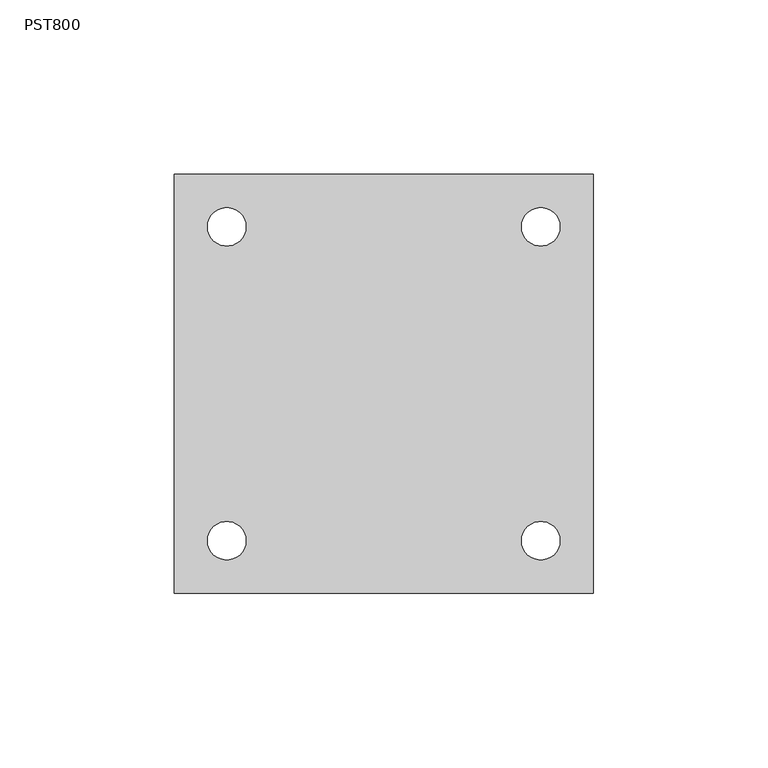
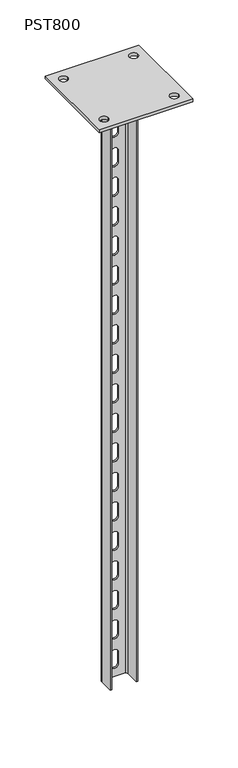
"""IFC4 building model written with IfcOpenShell, lengths in millimetres: proxy geometry, КМ Профиль_Стойка потолочная облегчённая PST : PST800."""

from ifc_helpers import new_model, si_unit, point, frame, frame_2d, origin, place, context, project, spatial, polyline, circle_curve, trimmed, segment, composite_curve, outline, extrude, source, transform, mapped, element, save
from ifc_brep_helpers import plane_surface, cylinder_surface, revolved_surface, advanced_brep


def pst800_dcbf87bc(model_context):
    return source(origin(), model_context, "Body", "SolidModel", [
        advanced_brep(
        [(17.5, -11.5, -4.0), (17.5, 7.5, -4.0), (13.5, 11.5, -4.0), (-13.5, 11.5, -4.0), (-17.5, 7.5, -4.0), (-17.5, -11.5, -4.0), (-15.5, -11.5, -4.0), (-15.5, 7.5, -4.0), (-13.5, 9.5, -4.0), (13.5, 9.5, -4.0), (15.5, 7.5, -4.0), (15.5, -11.5, -4.0), (17.5, 7.5, -804.0), (17.5, -11.5, -804.0), (15.5, -11.5, -804.0), (15.5, 7.5, -804.0), (13.5, 9.5, -804.0), (-13.5, 9.5, -804.0), (-15.5, 7.5, -804.0), (-15.5, -11.5, -804.0), (-17.5, -11.5, -804.0), (-17.5, 7.5, -804.0), (-13.5, 11.5, -804.0), (13.5, 11.5, -804.0), (-5.0, 11.5, -53.0), (-5.0, 11.5, -68.0), (5.0, 11.5, -68.0), (5.0, 11.5, -53.0), (-5.0, 11.5, -93.0), (-5.0, 11.5, -108.0), (5.0, 11.5, -108.0), (5.0, 11.5, -93.0), (-5.0, 11.5, -133.0), (-5.0, 11.5, -148.0), (5.0, 11.5, -148.0), (5.0, 11.5, -133.0), (-5.0, 11.5, -173.0), (-5.0, 11.5, -188.0), (5.0, 11.5, -188.0), (5.0, 11.5, -173.0), (-5.0, 11.5, -213.0), (-5.0, 11.5, -228.0), (5.0, 11.5, -228.0), (5.0, 11.5, -213.0), (-5.0, 11.5, -13.0), (-5.0, 11.5, -28.0), (5.0, 11.5, -28.0), (5.0, 11.5, -13.0), (-5.0, 11.5, -253.0), (-5.0, 11.5, -268.0), (5.0, 11.5, -268.0), (5.0, 11.5, -253.0), (-5.0, 11.5, -293.0), (-5.0, 11.5, -308.0), (5.0, 11.5, -308.0), (5.0, 11.5, -293.0), (-5.0, 11.5, -333.0), (-5.0, 11.5, -348.0), (5.0, 11.5, -348.0), (5.0, 11.5, -333.0), (-5.0, 11.5, -373.0), (-5.0, 11.5, -388.0), (5.0, 11.5, -388.0), (5.0, 11.5, -373.0), (-5.0, 11.5, -413.0), (-5.0, 11.5, -428.0), (5.0, 11.5, -428.0), (5.0, 11.5, -413.0), (-5.0, 11.5, -453.0), (-5.0, 11.5, -468.0), (5.0, 11.5, -468.0), (5.0, 11.5, -453.0), (-5.0, 11.5, -493.0), (-5.0, 11.5, -508.0), (5.0, 11.5, -508.0), (5.0, 11.5, -493.0), (-5.0, 11.5, -533.0), (-5.0, 11.5, -548.0), (5.0, 11.5, -548.0), (5.0, 11.5, -533.0), (-5.0, 11.5, -573.0), (-5.0, 11.5, -588.0), (5.0, 11.5, -588.0), (5.0, 11.5, -573.0), (-5.0, 11.5, -613.0), (-5.0, 11.5, -628.0), (5.0, 11.5, -628.0), (5.0, 11.5, -613.0), (-5.0, 11.5, -653.0), (-5.0, 11.5, -668.0), (5.0, 11.5, -668.0), (5.0, 11.5, -653.0), (-5.0, 11.5, -693.0), (-5.0, 11.5, -708.0), (5.0, 11.5, -708.0), (5.0, 11.5, -693.0), (-5.0, 11.5, -733.0), (-5.0, 11.5, -748.0), (5.0, 11.5, -748.0), (5.0, 11.5, -733.0), (-5.0, 11.5, -773.0), (-5.0, 11.5, -788.0), (5.0, 11.5, -788.0), (5.0, 11.5, -773.0), (-5.0, 9.5, -68.0), (-5.0, 9.5, -53.0), (5.0, 9.5, -53.0), (5.0, 9.5, -68.0), (-5.0, 9.5, -108.0), (-5.0, 9.5, -93.0), (5.0, 9.5, -93.0), (5.0, 9.5, -108.0), (-5.0, 9.5, -148.0), (-5.0, 9.5, -133.0), (5.0, 9.5, -133.0), (5.0, 9.5, -148.0), (-5.0, 9.5, -188.0), (-5.0, 9.5, -173.0), (5.0, 9.5, -173.0), (5.0, 9.5, -188.0), (-5.0, 9.5, -228.0), (-5.0, 9.5, -213.0), (5.0, 9.5, -213.0), (5.0, 9.5, -228.0), (-5.0, 9.5, -28.0), (-5.0, 9.5, -13.0), (5.0, 9.5, -13.0), (5.0, 9.5, -28.0), (-5.0, 9.5, -268.0), (-5.0, 9.5, -253.0), (5.0, 9.5, -253.0), (5.0, 9.5, -268.0), (-5.0, 9.5, -308.0), (-5.0, 9.5, -293.0), (5.0, 9.5, -293.0), (5.0, 9.5, -308.0), (-5.0, 9.5, -348.0), (-5.0, 9.5, -333.0), (5.0, 9.5, -333.0), (5.0, 9.5, -348.0), (-5.0, 9.5, -388.0), (-5.0, 9.5, -373.0), (5.0, 9.5, -373.0), (5.0, 9.5, -388.0), (-5.0, 9.5, -428.0), (-5.0, 9.5, -413.0), (5.0, 9.5, -413.0), (5.0, 9.5, -428.0), (-5.0, 9.5, -468.0), (-5.0, 9.5, -453.0), (5.0, 9.5, -453.0), (5.0, 9.5, -468.0), (-5.0, 9.5, -508.0), (-5.0, 9.5, -493.0), (5.0, 9.5, -493.0), (5.0, 9.5, -508.0), (-5.0, 9.5, -548.0), (-5.0, 9.5, -533.0), (5.0, 9.5, -533.0), (5.0, 9.5, -548.0), (-5.0, 9.5, -588.0), (-5.0, 9.5, -573.0), (5.0, 9.5, -573.0), (5.0, 9.5, -588.0), (-5.0, 9.5, -628.0), (-5.0, 9.5, -613.0), (5.0, 9.5, -613.0), (5.0, 9.5, -628.0), (-5.0, 9.5, -668.0), (-5.0, 9.5, -653.0), (5.0, 9.5, -653.0), (5.0, 9.5, -668.0), (-5.0, 9.5, -708.0), (-5.0, 9.5, -693.0), (5.0, 9.5, -693.0), (5.0, 9.5, -708.0), (-5.0, 9.5, -748.0), (-5.0, 9.5, -733.0), (5.0, 9.5, -733.0), (5.0, 9.5, -748.0), (-5.0, 9.5, -788.0), (-5.0, 9.5, -773.0), (5.0, 9.5, -773.0), (5.0, 9.5, -788.0)],
        [
            (0, 1),
            (1, 2, circle_curve(frame((13.5, 7.5, -4.0), z_axis=(0.0, 0.0, 1.0), x_axis=(1.0, 0.0, 0.0)), 4.0)),
            (2, 3),
            (3, 4, circle_curve(frame((-13.5, 7.5, -4.0), z_axis=(0.0, 0.0, 1.0), x_axis=(1.0, 0.0, 0.0)), 4.0)),
            (4, 5),
            (5, 6),
            (6, 7),
            (7, 8, circle_curve(frame((-13.5, 7.5, -4.0), z_axis=(0.0, 0.0, -1.0), x_axis=(1.0, 0.0, 0.0)), 2.0)),
            (8, 9),
            (9, 10, circle_curve(frame((13.5, 7.5, -4.0), z_axis=(0.0, 0.0, -1.0), x_axis=(1.0, 0.0, 0.0)), 2.0)),
            (10, 11),
            (11, 0),
            (12, 13),
            (13, 14),
            (14, 15),
            (15, 16, circle_curve(frame((13.5, 7.5, -804.0), z_axis=(0.0, 0.0, 1.0), x_axis=(1.0, 0.0, 0.0)), 2.0)),
            (16, 17),
            (17, 18, circle_curve(frame((-13.5, 7.5, -804.0), z_axis=(0.0, 0.0, 1.0), x_axis=(1.0, 0.0, 0.0)), 2.0)),
            (18, 19),
            (19, 20),
            (20, 21),
            (21, 22, circle_curve(frame((-13.5, 7.5, -804.0), z_axis=(0.0, 0.0, -1.0), x_axis=(1.0, 0.0, 0.0)), 4.0)),
            (22, 23),
            (23, 12, circle_curve(frame((13.5, 7.5, -804.0), z_axis=(0.0, 0.0, -1.0), x_axis=(1.0, 0.0, 0.0)), 4.0)),
            (0, 13),
            (12, 1),
            (23, 2),
            (22, 3),
            (24, 25),
            (25, 26, circle_curve(frame((0.0, 11.5, -68.0), z_axis=(0.0, -1.0, 0.0), x_axis=(0.0, 0.0, -1.0)), 5.0)),
            (26, 27),
            (27, 24, circle_curve(frame((0.0, 11.5, -53.0), z_axis=(0.0, -1.0, 0.0), x_axis=(0.0, 0.0, -1.0)), 5.0)),
            (28, 29),
            (29, 30, circle_curve(frame((0.0, 11.5, -108.0), z_axis=(0.0, -1.0, 0.0), x_axis=(0.0, 0.0, -1.0)), 5.0)),
            (30, 31),
            (31, 28, circle_curve(frame((0.0, 11.5, -93.0), z_axis=(0.0, -1.0, 0.0), x_axis=(0.0, 0.0, -1.0)), 5.0)),
            (32, 33),
            (33, 34, circle_curve(frame((0.0, 11.5, -148.0), z_axis=(0.0, -1.0, 0.0), x_axis=(0.0, 0.0, -1.0)), 5.0)),
            (34, 35),
            (35, 32, circle_curve(frame((0.0, 11.5, -133.0), z_axis=(0.0, -1.0, 0.0), x_axis=(0.0, 0.0, -1.0)), 5.0)),
            (36, 37),
            (37, 38, circle_curve(frame((0.0, 11.5, -188.0), z_axis=(0.0, -1.0, 0.0), x_axis=(0.0, 0.0, -1.0)), 5.0)),
            (38, 39),
            (39, 36, circle_curve(frame((0.0, 11.5, -173.0), z_axis=(0.0, -1.0, 0.0), x_axis=(0.0, 0.0, -1.0)), 5.0)),
            (40, 41),
            (41, 42, circle_curve(frame((0.0, 11.5, -228.0), z_axis=(0.0, -1.0, 0.0), x_axis=(0.0, 0.0, -1.0)), 5.0)),
            (42, 43),
            (43, 40, circle_curve(frame((0.0, 11.5, -213.0), z_axis=(0.0, -1.0, 0.0), x_axis=(0.0, 0.0, -1.0)), 5.0)),
            (44, 45),
            (45, 46, circle_curve(frame((0.0, 11.5, -28.0), z_axis=(0.0, -1.0, 0.0), x_axis=(0.0, 0.0, -1.0)), 5.0)),
            (46, 47),
            (47, 44, circle_curve(frame((0.0, 11.5, -13.0), z_axis=(0.0, -1.0, 0.0), x_axis=(0.0, 0.0, -1.0)), 5.0)),
            (48, 49),
            (49, 50, circle_curve(frame((0.0, 11.5, -268.0), z_axis=(0.0, -1.0, 0.0), x_axis=(0.0, 0.0, -1.0)), 5.0)),
            (50, 51),
            (51, 48, circle_curve(frame((0.0, 11.5, -253.0), z_axis=(0.0, -1.0, 0.0), x_axis=(0.0, 0.0, -1.0)), 5.0)),
            (52, 53),
            (53, 54, circle_curve(frame((0.0, 11.5, -308.0), z_axis=(0.0, -1.0, 0.0), x_axis=(0.0, 0.0, -1.0)), 5.0)),
            (54, 55),
            (55, 52, circle_curve(frame((0.0, 11.5, -293.0), z_axis=(0.0, -1.0, 0.0), x_axis=(0.0, 0.0, -1.0)), 5.0)),
            (56, 57),
            (57, 58, circle_curve(frame((0.0, 11.5, -348.0), z_axis=(0.0, -1.0, 0.0), x_axis=(0.0, 0.0, -1.0)), 5.0)),
            (58, 59),
            (59, 56, circle_curve(frame((0.0, 11.5, -333.0), z_axis=(0.0, -1.0, 0.0), x_axis=(0.0, 0.0, -1.0)), 5.0)),
            (60, 61),
            (61, 62, circle_curve(frame((0.0, 11.5, -388.0), z_axis=(0.0, -1.0, 0.0), x_axis=(0.0, 0.0, -1.0)), 5.0)),
            (62, 63),
            (63, 60, circle_curve(frame((0.0, 11.5, -373.0), z_axis=(0.0, -1.0, 0.0), x_axis=(0.0, 0.0, -1.0)), 5.0)),
            (64, 65),
            (65, 66, circle_curve(frame((0.0, 11.5, -428.0), z_axis=(0.0, -1.0, 0.0), x_axis=(0.0, 0.0, -1.0)), 5.0)),
            (66, 67),
            (67, 64, circle_curve(frame((0.0, 11.5, -413.0), z_axis=(0.0, -1.0, 0.0), x_axis=(0.0, 0.0, -1.0)), 5.0)),
            (68, 69),
            (69, 70, circle_curve(frame((0.0, 11.5, -468.0), z_axis=(0.0, -1.0, 0.0), x_axis=(0.0, 0.0, -1.0)), 5.0)),
            (70, 71),
            (71, 68, circle_curve(frame((0.0, 11.5, -453.0), z_axis=(0.0, -1.0, 0.0), x_axis=(0.0, 0.0, -1.0)), 5.0)),
            (72, 73),
            (73, 74, circle_curve(frame((0.0, 11.5, -508.0), z_axis=(0.0, -1.0, 0.0), x_axis=(0.0, 0.0, -1.0)), 5.0)),
            (74, 75),
            (75, 72, circle_curve(frame((0.0, 11.5, -493.0), z_axis=(0.0, -1.0, 0.0), x_axis=(0.0, 0.0, -1.0)), 5.0)),
            (76, 77),
            (77, 78, circle_curve(frame((0.0, 11.5, -548.0), z_axis=(0.0, -1.0, 0.0), x_axis=(0.0, 0.0, -1.0)), 5.0)),
            (78, 79),
            (79, 76, circle_curve(frame((0.0, 11.5, -533.0), z_axis=(0.0, -1.0, 0.0), x_axis=(0.0, 0.0, -1.0)), 5.0)),
            (80, 81),
            (81, 82, circle_curve(frame((0.0, 11.5, -588.0), z_axis=(0.0, -1.0, 0.0), x_axis=(0.0, 0.0, -1.0)), 5.0)),
            (82, 83),
            (83, 80, circle_curve(frame((0.0, 11.5, -573.0), z_axis=(0.0, -1.0, 0.0), x_axis=(0.0, 0.0, -1.0)), 5.0)),
            (84, 85),
            (85, 86, circle_curve(frame((0.0, 11.5, -628.0), z_axis=(0.0, -1.0, 0.0), x_axis=(0.0, 0.0, -1.0)), 5.0)),
            (86, 87),
            (87, 84, circle_curve(frame((0.0, 11.5, -613.0), z_axis=(0.0, -1.0, 0.0), x_axis=(0.0, 0.0, -1.0)), 5.0)),
            (88, 89),
            (89, 90, circle_curve(frame((0.0, 11.5, -668.0), z_axis=(0.0, -1.0, 0.0), x_axis=(0.0, 0.0, -1.0)), 5.0)),
            (90, 91),
            (91, 88, circle_curve(frame((0.0, 11.5, -653.0), z_axis=(0.0, -1.0, 0.0), x_axis=(0.0, 0.0, -1.0)), 5.0)),
            (92, 93),
            (93, 94, circle_curve(frame((0.0, 11.5, -708.0), z_axis=(0.0, -1.0, 0.0), x_axis=(0.0, 0.0, -1.0)), 5.0)),
            (94, 95),
            (95, 92, circle_curve(frame((0.0, 11.5, -693.0), z_axis=(0.0, -1.0, 0.0), x_axis=(0.0, 0.0, -1.0)), 5.0)),
            (96, 97),
            (97, 98, circle_curve(frame((0.0, 11.5, -748.0), z_axis=(0.0, -1.0, 0.0), x_axis=(0.0, 0.0, -1.0)), 5.0)),
            (98, 99),
            (99, 96, circle_curve(frame((0.0, 11.5, -733.0), z_axis=(0.0, -1.0, 0.0), x_axis=(0.0, 0.0, -1.0)), 5.0)),
            (100, 101),
            (101, 102, circle_curve(frame((0.0, 11.5, -788.0), z_axis=(0.0, -1.0, 0.0), x_axis=(0.0, 0.0, -1.0)), 5.0)),
            (102, 103),
            (103, 100, circle_curve(frame((0.0, 11.5, -773.0), z_axis=(0.0, -1.0, 0.0), x_axis=(0.0, 0.0, -1.0)), 5.0)),
            (21, 4),
            (20, 5),
            (19, 6),
            (18, 7),
            (17, 8),
            (16, 9),
            (104, 105),
            (105, 106, circle_curve(frame((0.0, 9.5, -53.0), z_axis=(0.0, 1.0, 0.0), x_axis=(0.0, 0.0, -1.0)), 5.0)),
            (106, 107),
            (107, 104, circle_curve(frame((0.0, 9.5, -68.0), z_axis=(0.0, 1.0, 0.0), x_axis=(0.0, 0.0, -1.0)), 5.0)),
            (108, 109),
            (109, 110, circle_curve(frame((0.0, 9.5, -93.0), z_axis=(0.0, 1.0, 0.0), x_axis=(0.0, 0.0, -1.0)), 5.0)),
            (110, 111),
            (111, 108, circle_curve(frame((0.0, 9.5, -108.0), z_axis=(0.0, 1.0, 0.0), x_axis=(0.0, 0.0, -1.0)), 5.0)),
            (112, 113),
            (113, 114, circle_curve(frame((0.0, 9.5, -133.0), z_axis=(0.0, 1.0, 0.0), x_axis=(0.0, 0.0, -1.0)), 5.0)),
            (114, 115),
            (115, 112, circle_curve(frame((0.0, 9.5, -148.0), z_axis=(0.0, 1.0, 0.0), x_axis=(0.0, 0.0, -1.0)), 5.0)),
            (116, 117),
            (117, 118, circle_curve(frame((0.0, 9.5, -173.0), z_axis=(0.0, 1.0, 0.0), x_axis=(0.0, 0.0, -1.0)), 5.0)),
            (118, 119),
            (119, 116, circle_curve(frame((0.0, 9.5, -188.0), z_axis=(0.0, 1.0, 0.0), x_axis=(0.0, 0.0, -1.0)), 5.0)),
            (120, 121),
            (121, 122, circle_curve(frame((0.0, 9.5, -213.0), z_axis=(0.0, 1.0, 0.0), x_axis=(0.0, 0.0, -1.0)), 5.0)),
            (122, 123),
            (123, 120, circle_curve(frame((0.0, 9.5, -228.0), z_axis=(0.0, 1.0, 0.0), x_axis=(0.0, 0.0, -1.0)), 5.0)),
            (124, 125),
            (125, 126, circle_curve(frame((0.0, 9.5, -13.0), z_axis=(0.0, 1.0, 0.0), x_axis=(0.0, 0.0, -1.0)), 5.0)),
            (126, 127),
            (127, 124, circle_curve(frame((0.0, 9.5, -28.0), z_axis=(0.0, 1.0, 0.0), x_axis=(0.0, 0.0, -1.0)), 5.0)),
            (128, 129),
            (129, 130, circle_curve(frame((0.0, 9.5, -253.0), z_axis=(0.0, 1.0, 0.0), x_axis=(0.0, 0.0, -1.0)), 5.0)),
            (130, 131),
            (131, 128, circle_curve(frame((0.0, 9.5, -268.0), z_axis=(0.0, 1.0, 0.0), x_axis=(0.0, 0.0, -1.0)), 5.0)),
            (132, 133),
            (133, 134, circle_curve(frame((0.0, 9.5, -293.0), z_axis=(0.0, 1.0, 0.0), x_axis=(0.0, 0.0, -1.0)), 5.0)),
            (134, 135),
            (135, 132, circle_curve(frame((0.0, 9.5, -308.0), z_axis=(0.0, 1.0, 0.0), x_axis=(0.0, 0.0, -1.0)), 5.0)),
            (136, 137),
            (137, 138, circle_curve(frame((0.0, 9.5, -333.0), z_axis=(0.0, 1.0, 0.0), x_axis=(0.0, 0.0, -1.0)), 5.0)),
            (138, 139),
            (139, 136, circle_curve(frame((0.0, 9.5, -348.0), z_axis=(0.0, 1.0, 0.0), x_axis=(0.0, 0.0, -1.0)), 5.0)),
            (140, 141),
            (141, 142, circle_curve(frame((0.0, 9.5, -373.0), z_axis=(0.0, 1.0, 0.0), x_axis=(0.0, 0.0, -1.0)), 5.0)),
            (142, 143),
            (143, 140, circle_curve(frame((0.0, 9.5, -388.0), z_axis=(0.0, 1.0, 0.0), x_axis=(0.0, 0.0, -1.0)), 5.0)),
            (144, 145),
            (145, 146, circle_curve(frame((0.0, 9.5, -413.0), z_axis=(0.0, 1.0, 0.0), x_axis=(0.0, 0.0, -1.0)), 5.0)),
            (146, 147),
            (147, 144, circle_curve(frame((0.0, 9.5, -428.0), z_axis=(0.0, 1.0, 0.0), x_axis=(0.0, 0.0, -1.0)), 5.0)),
            (148, 149),
            (149, 150, circle_curve(frame((0.0, 9.5, -453.0), z_axis=(0.0, 1.0, 0.0), x_axis=(0.0, 0.0, -1.0)), 5.0)),
            (150, 151),
            (151, 148, circle_curve(frame((0.0, 9.5, -468.0), z_axis=(0.0, 1.0, 0.0), x_axis=(0.0, 0.0, -1.0)), 5.0)),
            (152, 153),
            (153, 154, circle_curve(frame((0.0, 9.5, -493.0), z_axis=(0.0, 1.0, 0.0), x_axis=(0.0, 0.0, -1.0)), 5.0)),
            (154, 155),
            (155, 152, circle_curve(frame((0.0, 9.5, -508.0), z_axis=(0.0, 1.0, 0.0), x_axis=(0.0, 0.0, -1.0)), 5.0)),
            (156, 157),
            (157, 158, circle_curve(frame((0.0, 9.5, -533.0), z_axis=(0.0, 1.0, 0.0), x_axis=(0.0, 0.0, -1.0)), 5.0)),
            (158, 159),
            (159, 156, circle_curve(frame((0.0, 9.5, -548.0), z_axis=(0.0, 1.0, 0.0), x_axis=(0.0, 0.0, -1.0)), 5.0)),
            (160, 161),
            (161, 162, circle_curve(frame((0.0, 9.5, -573.0), z_axis=(0.0, 1.0, 0.0), x_axis=(0.0, 0.0, -1.0)), 5.0)),
            (162, 163),
            (163, 160, circle_curve(frame((0.0, 9.5, -588.0), z_axis=(0.0, 1.0, 0.0), x_axis=(0.0, 0.0, -1.0)), 5.0)),
            (164, 165),
            (165, 166, circle_curve(frame((0.0, 9.5, -613.0), z_axis=(0.0, 1.0, 0.0), x_axis=(0.0, 0.0, -1.0)), 5.0)),
            (166, 167),
            (167, 164, circle_curve(frame((0.0, 9.5, -628.0), z_axis=(0.0, 1.0, 0.0), x_axis=(0.0, 0.0, -1.0)), 5.0)),
            (168, 169),
            (169, 170, circle_curve(frame((0.0, 9.5, -653.0), z_axis=(0.0, 1.0, 0.0), x_axis=(0.0, 0.0, -1.0)), 5.0)),
            (170, 171),
            (171, 168, circle_curve(frame((0.0, 9.5, -668.0), z_axis=(0.0, 1.0, 0.0), x_axis=(0.0, 0.0, -1.0)), 5.0)),
            (172, 173),
            (173, 174, circle_curve(frame((0.0, 9.5, -693.0), z_axis=(0.0, 1.0, 0.0), x_axis=(0.0, 0.0, -1.0)), 5.0)),
            (174, 175),
            (175, 172, circle_curve(frame((0.0, 9.5, -708.0), z_axis=(0.0, 1.0, 0.0), x_axis=(0.0, 0.0, -1.0)), 5.0)),
            (176, 177),
            (177, 178, circle_curve(frame((0.0, 9.5, -733.0), z_axis=(0.0, 1.0, 0.0), x_axis=(0.0, 0.0, -1.0)), 5.0)),
            (178, 179),
            (179, 176, circle_curve(frame((0.0, 9.5, -748.0), z_axis=(0.0, 1.0, 0.0), x_axis=(0.0, 0.0, -1.0)), 5.0)),
            (180, 181),
            (181, 182, circle_curve(frame((0.0, 9.5, -773.0), z_axis=(0.0, 1.0, 0.0), x_axis=(0.0, 0.0, -1.0)), 5.0)),
            (182, 183),
            (183, 180, circle_curve(frame((0.0, 9.5, -788.0), z_axis=(0.0, 1.0, 0.0), x_axis=(0.0, 0.0, -1.0)), 5.0)),
            (15, 10),
            (14, 11),
            (24, 105),
            (104, 25),
            (27, 106),
            (26, 107),
            (28, 109),
            (108, 29),
            (31, 110),
            (30, 111),
            (32, 113),
            (112, 33),
            (35, 114),
            (34, 115),
            (36, 117),
            (116, 37),
            (39, 118),
            (38, 119),
            (40, 121),
            (120, 41),
            (43, 122),
            (42, 123),
            (44, 125),
            (124, 45),
            (47, 126),
            (46, 127),
            (48, 129),
            (128, 49),
            (51, 130),
            (50, 131),
            (52, 133),
            (132, 53),
            (55, 134),
            (54, 135),
            (56, 137),
            (136, 57),
            (59, 138),
            (58, 139),
            (60, 141),
            (140, 61),
            (63, 142),
            (62, 143),
            (64, 145),
            (144, 65),
            (67, 146),
            (66, 147),
            (68, 149),
            (148, 69),
            (71, 150),
            (70, 151),
            (72, 153),
            (152, 73),
            (75, 154),
            (74, 155),
            (76, 157),
            (156, 77),
            (79, 158),
            (78, 159),
            (80, 161),
            (160, 81),
            (83, 162),
            (82, 163),
            (84, 165),
            (164, 85),
            (87, 166),
            (86, 167),
            (88, 169),
            (168, 89),
            (91, 170),
            (90, 171),
            (92, 173),
            (172, 93),
            (95, 174),
            (94, 175),
            (96, 177),
            (176, 97),
            (99, 178),
            (98, 179),
            (100, 181),
            (180, 101),
            (103, 182),
            (102, 183),
        ],
        [
            plane_surface(frame((17.5, 70.8587358, -4.0), z_axis=(0.0, 0.0, 1.0), x_axis=(0.0, 1.0, 0.0))),
            plane_surface(frame((17.5, 70.8587358, -804.0), z_axis=(0.0, 0.0, -1.0), x_axis=(0.0, -1.0, 0.0))),
            plane_surface(frame((17.5, -11.5, -4.0), z_axis=(1.0, 0.0, 0.0), x_axis=(0.0, 0.0, -1.0))),
            cylinder_surface(frame((13.5, 7.5, -804.0), z_axis=(0.0, 0.0, 1.0), x_axis=(1.0, 0.0, 0.0)), 4.0),
            plane_surface(frame((13.5, 11.5, -4.0), z_axis=(0.0, 1.0, 0.0), x_axis=(0.0, 0.0, -1.0))),
            cylinder_surface(frame((-13.5, 7.5, -804.0), z_axis=(0.0, 0.0, 1.0), x_axis=(1.0, 0.0, 0.0)), 4.0),
            plane_surface(frame((-17.5, 7.5, -4.0), z_axis=(-1.0, 0.0, 0.0), x_axis=(0.0, 0.0, -1.0))),
            plane_surface(frame((-17.5, -11.5, -4.0), z_axis=(0.0, -1.0, 0.0), x_axis=(0.0, 0.0, -1.0))),
            plane_surface(frame((-15.5, -11.5, -4.0), z_axis=(1.0, 0.0, 0.0), x_axis=(0.0, 0.0, -1.0))),
            revolved_surface(polyline([(-11.5, 7.5, -804.0), (-11.5, 7.5, -4.0)]), (-13.5, 7.5, -804.0), (0.0, 0.0, -1.0)),
            plane_surface(frame((-13.5, 9.5, -4.0), z_axis=(0.0, -1.0, 0.0), x_axis=(0.0, 0.0, -1.0))),
            revolved_surface(polyline([(15.5, 7.5, -804.0), (15.5, 7.5, -4.0)]), (13.5, 7.5, -804.0), (0.0, 0.0, -1.0)),
            plane_surface(frame((15.5, 7.5, -4.0), z_axis=(-1.0, 0.0, 0.0), x_axis=(0.0, 0.0, -1.0))),
            plane_surface(frame((15.5, -11.5, -4.0), z_axis=(0.0, -1.0, 0.0), x_axis=(0.0, 0.0, -1.0))),
            plane_surface(frame((-5.0, 11.5, -68.0), z_axis=(1.0, 0.0, 0.0), x_axis=(0.0, -1.0, 0.0))),
            revolved_surface(polyline([(0.0, 11.5, -58.0), (0.0, 9.5, -58.0)]), (0.0, 9.5, -53.0), (0.0, 1.0, 0.0)),
            plane_surface(frame((5.0, 11.5, -53.0), z_axis=(-1.0, 0.0, 0.0), x_axis=(0.0, -1.0, 0.0))),
            revolved_surface(polyline([(0.0, 11.5, -73.0), (0.0, 9.5, -73.0)]), (0.0, 9.5, -68.0), (0.0, 1.0, 0.0)),
            plane_surface(frame((-5.0, 11.5, -108.0), z_axis=(1.0, 0.0, 0.0), x_axis=(0.0, -1.0, 0.0))),
            revolved_surface(polyline([(0.0, 11.5, -98.0), (0.0, 9.5, -98.0)]), (0.0, 9.5, -93.0), (0.0, 1.0, 0.0)),
            plane_surface(frame((5.0, 11.5, -93.0), z_axis=(-1.0, 0.0, 0.0), x_axis=(0.0, -1.0, 0.0))),
            revolved_surface(polyline([(0.0, 11.5, -113.0), (0.0, 9.5, -113.0)]), (0.0, 9.5, -108.0), (0.0, 1.0, 0.0)),
            plane_surface(frame((-5.0, 11.5, -148.0), z_axis=(1.0, 0.0, 0.0), x_axis=(0.0, -1.0, 0.0))),
            revolved_surface(polyline([(0.0, 11.5, -138.0), (0.0, 9.5, -138.0)]), (0.0, 9.5, -133.0), (0.0, 1.0, 0.0)),
            plane_surface(frame((5.0, 11.5, -133.0), z_axis=(-1.0, 0.0, 0.0), x_axis=(0.0, -1.0, 0.0))),
            revolved_surface(polyline([(0.0, 11.5, -153.0), (0.0, 9.5, -153.0)]), (0.0, 9.5, -148.0), (0.0, 1.0, 0.0)),
            plane_surface(frame((-5.0, 11.5, -188.0), z_axis=(1.0, 0.0, 0.0), x_axis=(0.0, -1.0, 0.0))),
            revolved_surface(polyline([(0.0, 11.5, -178.0), (0.0, 9.5, -178.0)]), (0.0, 9.5, -173.0), (0.0, 1.0, 0.0)),
            plane_surface(frame((5.0, 11.5, -173.0), z_axis=(-1.0, 0.0, 0.0), x_axis=(0.0, -1.0, 0.0))),
            revolved_surface(polyline([(0.0, 11.5, -193.0), (0.0, 9.5, -193.0)]), (0.0, 9.5, -188.0), (0.0, 1.0, 0.0)),
            plane_surface(frame((-5.0, 11.5, -228.0), z_axis=(1.0, 0.0, 0.0), x_axis=(0.0, -1.0, 0.0))),
            revolved_surface(polyline([(0.0, 11.5, -218.0), (0.0, 9.5, -218.0)]), (0.0, 9.5, -213.0), (0.0, 1.0, 0.0)),
            plane_surface(frame((5.0, 11.5, -213.0), z_axis=(-1.0, 0.0, 0.0), x_axis=(0.0, -1.0, 0.0))),
            revolved_surface(polyline([(0.0, 11.5, -233.0), (0.0, 9.5, -233.0)]), (0.0, 9.5, -228.0), (0.0, 1.0, 0.0)),
            plane_surface(frame((-5.0, 11.5, -28.0), z_axis=(1.0, 0.0, 0.0), x_axis=(0.0, -1.0, 0.0))),
            revolved_surface(polyline([(0.0, 11.5, -18.0), (0.0, 9.5, -18.0)]), (0.0, 9.5, -13.0), (0.0, 1.0, 0.0)),
            plane_surface(frame((5.0, 11.5, -13.0), z_axis=(-1.0, 0.0, 0.0), x_axis=(0.0, -1.0, 0.0))),
            revolved_surface(polyline([(0.0, 11.5, -33.0), (0.0, 9.5, -33.0)]), (0.0, 9.5, -28.0), (0.0, 1.0, 0.0)),
            plane_surface(frame((-5.0, 11.5, -268.0), z_axis=(1.0, 0.0, 0.0), x_axis=(0.0, -1.0, 0.0))),
            revolved_surface(polyline([(0.0, 11.5, -258.0), (0.0, 9.5, -258.0)]), (0.0, 9.5, -253.0), (0.0, 1.0, 0.0)),
            plane_surface(frame((5.0, 11.5, -253.0), z_axis=(-1.0, 0.0, 0.0), x_axis=(0.0, -1.0, 0.0))),
            revolved_surface(polyline([(0.0, 11.5, -273.0), (0.0, 9.5, -273.0)]), (0.0, 9.5, -268.0), (0.0, 1.0, 0.0)),
            plane_surface(frame((-5.0, 11.5, -308.0), z_axis=(1.0, 0.0, 0.0), x_axis=(0.0, -1.0, 0.0))),
            revolved_surface(polyline([(0.0, 11.5, -298.0), (0.0, 9.5, -298.0)]), (0.0, 9.5, -293.0), (0.0, 1.0, 0.0)),
            plane_surface(frame((5.0, 11.5, -293.0), z_axis=(-1.0, 0.0, 0.0), x_axis=(0.0, -1.0, 0.0))),
            revolved_surface(polyline([(0.0, 11.5, -313.0), (0.0, 9.5, -313.0)]), (0.0, 9.5, -308.0), (0.0, 1.0, 0.0)),
            plane_surface(frame((-5.0, 11.5, -348.0), z_axis=(1.0, 0.0, 0.0), x_axis=(0.0, -1.0, 0.0))),
            revolved_surface(polyline([(0.0, 11.5, -338.0), (0.0, 9.5, -338.0)]), (0.0, 9.5, -333.0), (0.0, 1.0, 0.0)),
            plane_surface(frame((5.0, 11.5, -333.0), z_axis=(-1.0, 0.0, 0.0), x_axis=(0.0, -1.0, 0.0))),
            revolved_surface(polyline([(0.0, 11.5, -353.0), (0.0, 9.5, -353.0)]), (0.0, 9.5, -348.0), (0.0, 1.0, 0.0)),
            plane_surface(frame((-5.0, 11.5, -388.0), z_axis=(1.0, 0.0, 0.0), x_axis=(0.0, -1.0, 0.0))),
            revolved_surface(polyline([(0.0, 11.5, -378.0), (0.0, 9.5, -378.0)]), (0.0, 9.5, -373.0), (0.0, 1.0, 0.0)),
            plane_surface(frame((5.0, 11.5, -373.0), z_axis=(-1.0, 0.0, 0.0), x_axis=(0.0, -1.0, 0.0))),
            revolved_surface(polyline([(0.0, 11.5, -393.0), (0.0, 9.5, -393.0)]), (0.0, 9.5, -388.0), (0.0, 1.0, 0.0)),
            plane_surface(frame((-5.0, 11.5, -428.0), z_axis=(1.0, 0.0, 0.0), x_axis=(0.0, -1.0, 0.0))),
            revolved_surface(polyline([(0.0, 11.5, -418.0), (0.0, 9.5, -418.0)]), (0.0, 9.5, -413.0), (0.0, 1.0, 0.0)),
            plane_surface(frame((5.0, 11.5, -413.0), z_axis=(-1.0, 0.0, 0.0), x_axis=(0.0, -1.0, 0.0))),
            revolved_surface(polyline([(0.0, 11.5, -433.0), (0.0, 9.5, -433.0)]), (0.0, 9.5, -428.0), (0.0, 1.0, 0.0)),
            plane_surface(frame((-5.0, 11.5, -468.0), z_axis=(1.0, 0.0, 0.0), x_axis=(0.0, -1.0, 0.0))),
            revolved_surface(polyline([(0.0, 11.5, -458.0), (0.0, 9.5, -458.0)]), (0.0, 9.5, -453.0), (0.0, 1.0, 0.0)),
            plane_surface(frame((5.0, 11.5, -453.0), z_axis=(-1.0, 0.0, 0.0), x_axis=(0.0, -1.0, 0.0))),
            revolved_surface(polyline([(0.0, 11.5, -473.0), (0.0, 9.5, -473.0)]), (0.0, 9.5, -468.0), (0.0, 1.0, 0.0)),
            plane_surface(frame((-5.0, 11.5, -508.0), z_axis=(1.0, 0.0, 0.0), x_axis=(0.0, -1.0, 0.0))),
            revolved_surface(polyline([(0.0, 11.5, -498.0), (0.0, 9.5, -498.0)]), (0.0, 9.5, -493.0), (0.0, 1.0, 0.0)),
            plane_surface(frame((5.0, 11.5, -493.0), z_axis=(-1.0, 0.0, 0.0), x_axis=(0.0, -1.0, 0.0))),
            revolved_surface(polyline([(0.0, 11.5, -513.0), (0.0, 9.5, -513.0)]), (0.0, 9.5, -508.0), (0.0, 1.0, 0.0)),
            plane_surface(frame((-5.0, 11.5, -548.0), z_axis=(1.0, 0.0, 0.0), x_axis=(0.0, -1.0, 0.0))),
            revolved_surface(polyline([(0.0, 11.5, -538.0), (0.0, 9.5, -538.0)]), (0.0, 9.5, -533.0), (0.0, 1.0, 0.0)),
            plane_surface(frame((5.0, 11.5, -533.0), z_axis=(-1.0, 0.0, 0.0), x_axis=(0.0, -1.0, 0.0))),
            revolved_surface(polyline([(0.0, 11.5, -553.0), (0.0, 9.5, -553.0)]), (0.0, 9.5, -548.0), (0.0, 1.0, 0.0)),
            plane_surface(frame((-5.0, 11.5, -588.0), z_axis=(1.0, 0.0, 0.0), x_axis=(0.0, -1.0, 0.0))),
            revolved_surface(polyline([(0.0, 11.5, -578.0), (0.0, 9.5, -578.0)]), (0.0, 9.5, -573.0), (0.0, 1.0, 0.0)),
            plane_surface(frame((5.0, 11.5, -573.0), z_axis=(-1.0, 0.0, 0.0), x_axis=(0.0, -1.0, 0.0))),
            revolved_surface(polyline([(0.0, 11.5, -593.0), (0.0, 9.5, -593.0)]), (0.0, 9.5, -588.0), (0.0, 1.0, 0.0)),
            plane_surface(frame((-5.0, 11.5, -628.0), z_axis=(1.0, 0.0, 0.0), x_axis=(0.0, -1.0, 0.0))),
            revolved_surface(polyline([(0.0, 11.5, -618.0), (0.0, 9.5, -618.0)]), (0.0, 9.5, -613.0), (0.0, 1.0, 0.0)),
            plane_surface(frame((5.0, 11.5, -613.0), z_axis=(-1.0, 0.0, 0.0), x_axis=(0.0, -1.0, 0.0))),
            revolved_surface(polyline([(0.0, 11.5, -633.0), (0.0, 9.5, -633.0)]), (0.0, 9.5, -628.0), (0.0, 1.0, 0.0)),
            plane_surface(frame((-5.0, 11.5, -668.0), z_axis=(1.0, 0.0, 0.0), x_axis=(0.0, -1.0, 0.0))),
            revolved_surface(polyline([(0.0, 11.5, -658.0), (0.0, 9.5, -658.0)]), (0.0, 9.5, -653.0), (0.0, 1.0, 0.0)),
            plane_surface(frame((5.0, 11.5, -653.0), z_axis=(-1.0, 0.0, 0.0), x_axis=(0.0, -1.0, 0.0))),
            revolved_surface(polyline([(0.0, 11.5, -673.0), (0.0, 9.5, -673.0)]), (0.0, 9.5, -668.0), (0.0, 1.0, 0.0)),
            plane_surface(frame((-5.0, 11.5, -708.0), z_axis=(1.0, 0.0, 0.0), x_axis=(0.0, -1.0, 0.0))),
            revolved_surface(polyline([(0.0, 11.5, -698.0), (0.0, 9.5, -698.0)]), (0.0, 9.5, -693.0), (0.0, 1.0, 0.0)),
            plane_surface(frame((5.0, 11.5, -693.0), z_axis=(-1.0, 0.0, 0.0), x_axis=(0.0, -1.0, 0.0))),
            revolved_surface(polyline([(0.0, 11.5, -713.0), (0.0, 9.5, -713.0)]), (0.0, 9.5, -708.0), (0.0, 1.0, 0.0)),
            plane_surface(frame((-5.0, 11.5, -748.0), z_axis=(1.0, 0.0, 0.0), x_axis=(0.0, -1.0, 0.0))),
            revolved_surface(polyline([(0.0, 11.5, -738.0), (0.0, 9.5, -738.0)]), (0.0, 9.5, -733.0), (0.0, 1.0, 0.0)),
            plane_surface(frame((5.0, 11.5, -733.0), z_axis=(-1.0, 0.0, 0.0), x_axis=(0.0, -1.0, 0.0))),
            revolved_surface(polyline([(0.0, 11.5, -753.0), (0.0, 9.5, -753.0)]), (0.0, 9.5, -748.0), (0.0, 1.0, 0.0)),
            plane_surface(frame((-5.0, 11.5, -788.0), z_axis=(1.0, 0.0, 0.0), x_axis=(0.0, -1.0, 0.0))),
            revolved_surface(polyline([(0.0, 11.5, -778.0), (0.0, 9.5, -778.0)]), (0.0, 9.5, -773.0), (0.0, 1.0, 0.0)),
            plane_surface(frame((5.0, 11.5, -773.0), z_axis=(-1.0, 0.0, 0.0), x_axis=(0.0, -1.0, 0.0))),
            revolved_surface(polyline([(0.0, 11.5, -793.0), (0.0, 9.5, -793.0)]), (0.0, 9.5, -788.0), (0.0, 1.0, 0.0)),
        ],
        [
            (0, [[1, 2, 3, 4, 5, 6, 7, 8, 9, 10, 11, 12]]),
            (1, [[13, 14, 15, 16, 17, 18, 19, 20, 21, 22, 23, 24]]),
            (2, [[-1, 25, -13, 26]]),
            (3, [[-2, -26, -24, 27]]),
            (4, [[-3, -27, -23, 28], [29, 30, 31, 32], [33, 34, 35, 36], [37, 38, 39, 40], [41, 42, 43, 44], [45, 46, 47, 48], [49, 50, 51, 52], [53, 54, 55, 56], [57, 58, 59, 60], [61, 62, 63, 64], [65, 66, 67, 68], [69, 70, 71, 72], [73, 74, 75, 76], [77, 78, 79, 80], [81, 82, 83, 84], [85, 86, 87, 88], [89, 90, 91, 92], [93, 94, 95, 96], [97, 98, 99, 100], [101, 102, 103, 104], [105, 106, 107, 108]]),
            (5, [[-4, -28, -22, 109]]),
            (6, [[-5, -109, -21, 110]]),
            (7, [[-6, -110, -20, 111]]),
            (8, [[-7, -111, -19, 112]]),
            (9, [[-8, -112, -18, 113]]),
            (10, [[-9, -113, -17, 114], [115, 116, 117, 118], [119, 120, 121, 122], [123, 124, 125, 126], [127, 128, 129, 130], [131, 132, 133, 134], [135, 136, 137, 138], [139, 140, 141, 142], [143, 144, 145, 146], [147, 148, 149, 150], [151, 152, 153, 154], [155, 156, 157, 158], [159, 160, 161, 162], [163, 164, 165, 166], [167, 168, 169, 170], [171, 172, 173, 174], [175, 176, 177, 178], [179, 180, 181, 182], [183, 184, 185, 186], [187, 188, 189, 190], [191, 192, 193, 194]]),
            (11, [[-10, -114, -16, 195]]),
            (12, [[-11, -195, -15, 196]]),
            (13, [[-12, -196, -14, -25]]),
            (14, [[197, -115, 198, -29]]),
            (15, [[-197, -32, 199, -116]]),
            (16, [[-199, -31, 200, -117]]),
            (17, [[-198, -118, -200, -30]]),
            (18, [[201, -119, 202, -33]]),
            (19, [[-201, -36, 203, -120]]),
            (20, [[-203, -35, 204, -121]]),
            (21, [[-202, -122, -204, -34]]),
            (22, [[205, -123, 206, -37]]),
            (23, [[-205, -40, 207, -124]]),
            (24, [[-207, -39, 208, -125]]),
            (25, [[-206, -126, -208, -38]]),
            (26, [[209, -127, 210, -41]]),
            (27, [[-209, -44, 211, -128]]),
            (28, [[-211, -43, 212, -129]]),
            (29, [[-210, -130, -212, -42]]),
            (30, [[213, -131, 214, -45]]),
            (31, [[-213, -48, 215, -132]]),
            (32, [[-215, -47, 216, -133]]),
            (33, [[-214, -134, -216, -46]]),
            (34, [[217, -135, 218, -49]]),
            (35, [[-217, -52, 219, -136]]),
            (36, [[-219, -51, 220, -137]]),
            (37, [[-218, -138, -220, -50]]),
            (38, [[221, -139, 222, -53]]),
            (39, [[-221, -56, 223, -140]]),
            (40, [[-223, -55, 224, -141]]),
            (41, [[-222, -142, -224, -54]]),
            (42, [[225, -143, 226, -57]]),
            (43, [[-225, -60, 227, -144]]),
            (44, [[-227, -59, 228, -145]]),
            (45, [[-226, -146, -228, -58]]),
            (46, [[229, -147, 230, -61]]),
            (47, [[-229, -64, 231, -148]]),
            (48, [[-231, -63, 232, -149]]),
            (49, [[-230, -150, -232, -62]]),
            (50, [[233, -151, 234, -65]]),
            (51, [[-233, -68, 235, -152]]),
            (52, [[-235, -67, 236, -153]]),
            (53, [[-234, -154, -236, -66]]),
            (54, [[237, -155, 238, -69]]),
            (55, [[-237, -72, 239, -156]]),
            (56, [[-239, -71, 240, -157]]),
            (57, [[-238, -158, -240, -70]]),
            (58, [[241, -159, 242, -73]]),
            (59, [[-241, -76, 243, -160]]),
            (60, [[-243, -75, 244, -161]]),
            (61, [[-242, -162, -244, -74]]),
            (62, [[245, -163, 246, -77]]),
            (63, [[-245, -80, 247, -164]]),
            (64, [[-247, -79, 248, -165]]),
            (65, [[-246, -166, -248, -78]]),
            (66, [[249, -167, 250, -81]]),
            (67, [[-249, -84, 251, -168]]),
            (68, [[-251, -83, 252, -169]]),
            (69, [[-250, -170, -252, -82]]),
            (70, [[253, -171, 254, -85]]),
            (71, [[-253, -88, 255, -172]]),
            (72, [[-255, -87, 256, -173]]),
            (73, [[-254, -174, -256, -86]]),
            (74, [[257, -175, 258, -89]]),
            (75, [[-257, -92, 259, -176]]),
            (76, [[-259, -91, 260, -177]]),
            (77, [[-258, -178, -260, -90]]),
            (78, [[261, -179, 262, -93]]),
            (79, [[-261, -96, 263, -180]]),
            (80, [[-263, -95, 264, -181]]),
            (81, [[-262, -182, -264, -94]]),
            (82, [[265, -183, 266, -97]]),
            (83, [[-265, -100, 267, -184]]),
            (84, [[-267, -99, 268, -185]]),
            (85, [[-266, -186, -268, -98]]),
            (86, [[269, -187, 270, -101]]),
            (87, [[-269, -104, 271, -188]]),
            (88, [[-271, -103, 272, -189]]),
            (89, [[-270, -190, -272, -102]]),
            (90, [[273, -191, 274, -105]]),
            (91, [[-273, -108, 275, -192]]),
            (92, [[-275, -107, 276, -193]]),
            (93, [[-274, -194, -276, -106]]),
        ],
    ),
        extrude(outline(polyline([(-60.0, 60.0), (60.0, 60.0), (60.0, -60.0), (-60.0, -60.0), (-60.0, 60.0)]), holes=[composite_curve([segment(trimmed(circle_curve(frame_2d((-45.0, 45.0)), 5.5), [point((-50.5, 45.0))], [point((-39.5, 45.0))], True, "CARTESIAN"), True, "CONTINUOUS"), segment(trimmed(circle_curve(frame_2d((-45.0, 45.0)), 5.5), [point((-39.5, 45.0))], [point((-50.5, 45.0))], True, "CARTESIAN"), True, "CONTINUOUS")], self_intersect=False), composite_curve([segment(trimmed(circle_curve(frame_2d((45.0, 45.0)), 5.5), [point((39.5, 45.0))], [point((50.5, 45.0))], True, "CARTESIAN"), True, "CONTINUOUS"), segment(trimmed(circle_curve(frame_2d((45.0, 45.0)), 5.5), [point((50.5, 45.0))], [point((39.5, 45.0))], True, "CARTESIAN"), True, "CONTINUOUS")], self_intersect=False), composite_curve([segment(trimmed(circle_curve(frame_2d((45.0, -45.0)), 5.5), [point((39.5, -45.0))], [point((50.5, -45.0))], True, "CARTESIAN"), True, "CONTINUOUS"), segment(trimmed(circle_curve(frame_2d((45.0, -45.0)), 5.5), [point((50.5, -45.0))], [point((39.5, -45.0))], True, "CARTESIAN"), True, "CONTINUOUS")], self_intersect=False), composite_curve([segment(trimmed(circle_curve(frame_2d((-45.0, -45.0)), 5.5), [point((-50.5, -45.0))], [point((-39.5, -45.0))], True, "CARTESIAN"), True, "CONTINUOUS"), segment(trimmed(circle_curve(frame_2d((-45.0, -45.0)), 5.5), [point((-39.5, -45.0))], [point((-50.5, -45.0))], True, "CARTESIAN"), True, "CONTINUOUS")], self_intersect=False)]), frame((0.0, 0.0, -4.0), z_axis=(0.0, 0.0, 1.0), x_axis=(1.0, 0.0, 0.0)), (0.0, 0.0, 1.0), 4.0),
    ])


if __name__ == "__main__":
    model = new_model("IFC4")
    model_context = context("Model", 3, world=origin())
    ifc_project = project(units=[si_unit("LENGTHUNIT", "METRE", prefix="MILLI")], contexts=[model_context])
    site = spatial("IfcSite", under=ifc_project)
    building = spatial("IfcBuilding", under=site)
    placement = place(None, origin())
    pst800_shape = pst800_dcbf87bc(model_context)
    element("IfcBuildingElementProxy", 1, Name="КМ Профиль_Стойка потолочная облегчённая PST : PST800", ObjectType="КМ Профиль_Стойка потолочная облегчённая PST : PST800", at=placement, inside=building, context=model_context, shape_type="MappedRepresentation", body=[
        mapped(pst800_shape, transform((0.0, 0.0, 0.0), x_axis=(1.0, 0.0, 0.0), y_axis=(0.0, 1.0, 0.0), z_axis=(0.0, 0.0, 1.0))),
    ])
    save(model, "model.ifc")
